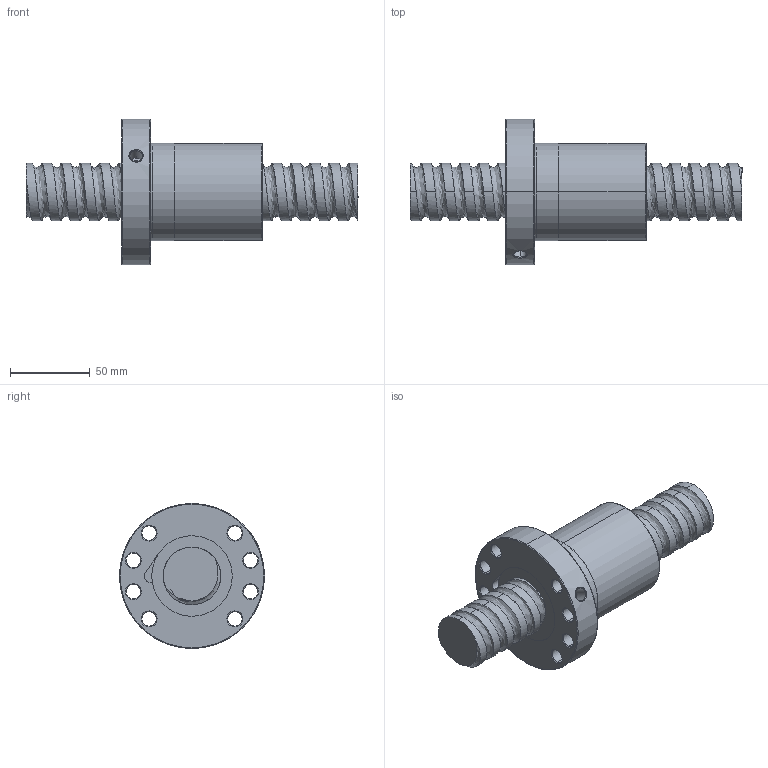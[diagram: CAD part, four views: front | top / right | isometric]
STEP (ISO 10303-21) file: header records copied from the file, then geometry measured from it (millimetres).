
FILE_DESCRIPTION (( 'STEP AP214' ), '1' );
FILE_NAME ('FSDC03612T5-F-A.STEP', '2010-06-25T12:00:13', ( 'XPAUTO' ), ( 'XPAUTO' ), 'SwSTEP 2.0', 'SolidWorks 2007', '' );
FILE_SCHEMA (( 'AUTOMOTIVE_DESIGN' ));
Length unit declared in the file: millimetre
Products named in the file (3): FSDC03612T5-F-A; FSDC03612T5-F-A.sldasm-Part-2_預設; FSDC03612T5-F-A.sldasm-Part-1_預設
Assembly tree (2 placements, depth 2):
  FSDC03612T5-F-A
    FSDC03612T5-F-A.sldasm-Part-2_預設
    FSDC03612T5-F-A.sldasm-Part-1_預設
Bounding box: 208 x 91 x 91 mm (x, y, z)
Volume: 410286.2 mm3; surface area: 72242.1 mm2
Topology: 2 solids, 2 shells, 135 faces, 335 edges, 209 vertices
Faces by surface type: cylinder 76, cone 32, plane 16, torus 6, bspline 5
Entity records: 26096 total; most frequent: CARTESIAN_POINT 22858, ORIENTED_EDGE 670, DIRECTION 643, EDGE_CURVE 335, AXIS2_PLACEMENT_3D 264, VERTEX_POINT 209, EDGE_LOOP 160, FACE_OUTER_BOUND 135
